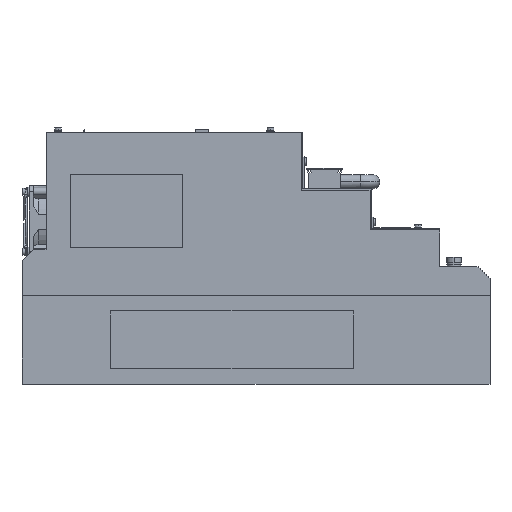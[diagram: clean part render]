
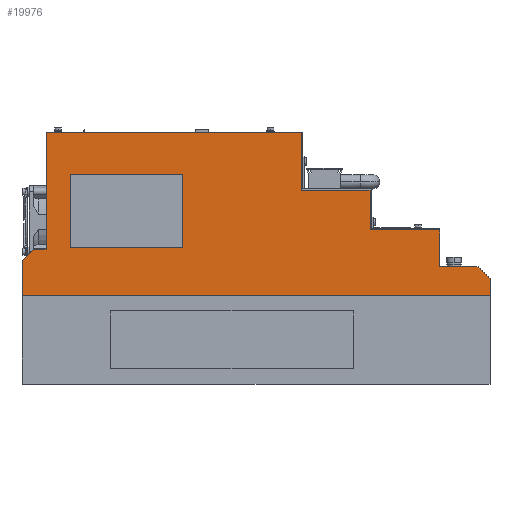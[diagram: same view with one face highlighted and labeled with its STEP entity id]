
A CAD part, left-side view. The second image highlights one B-rep face of the part: STEP entity #19976.
In plain terms, the highlighted planar face has unit normal (-1, 0, 0).
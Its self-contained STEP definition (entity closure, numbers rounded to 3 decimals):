
#2826 = DIRECTION ( 'NONE',  ( 0., 1., 0. ) ) ;
#2827 = DIRECTION ( 'NONE',  ( 1., 0., 0. ) ) ;
#2828 = CARTESIAN_POINT ( 'NONE',  ( -30., -12.5, 612.55 ) ) ;
#2829 = AXIS2_PLACEMENT_3D ( 'NONE', #2828, #2827, #2826 ) ;
#2830 = PLANE ( 'NONE',  #2829 ) ;
#2831 = FACE_OUTER_BOUND ( 'NONE', #20453, .T. ) ;
#2832 = FACE_BOUND ( 'NONE', #20171, .T. ) ;
#2909 = CARTESIAN_POINT ( 'NONE',  ( -30., -282.5, 128.5 ) ) ;
#2910 = DIRECTION ( 'NONE',  ( 0., 1., 0. ) ) ;
#2911 = VECTOR ( 'NONE', #2910, 1000. ) ;
#2912 = CARTESIAN_POINT ( 'NONE',  ( -30., -340.5, 128.5 ) ) ;
#2913 = LINE ( 'NONE', #2912, #2911 ) ;
#2967 = LINE ( 'NONE', #3034, #3033 ) ;
#3032 = DIRECTION ( 'NONE',  ( 0., 1., 0. ) ) ;
#3033 = VECTOR ( 'NONE', #3032, 1000. ) ;
#3034 = CARTESIAN_POINT ( 'NONE',  ( -30., -32.5, 175. ) ) ;
#3107 = CARTESIAN_POINT ( 'NONE',  ( -30., -32.5, 175. ) ) ;
#3151 = DIRECTION ( 'NONE',  ( 0., 0., -1. ) ) ;
#3152 = VECTOR ( 'NONE', #3151, 1000. ) ;
#3153 = CARTESIAN_POINT ( 'NONE',  ( -30., -32.5, 114. ) ) ;
#3154 = LINE ( 'NONE', #3153, #3152 ) ;
#3168 = CARTESIAN_POINT ( 'NONE',  ( -30., -126.5, 175. ) ) ;
#3218 = DIRECTION ( 'NONE',  ( 0., -1., 0. ) ) ;
#3219 = VECTOR ( 'NONE', #3218, 1000. ) ;
#3220 = CARTESIAN_POINT ( 'NONE',  ( -30., -32.5, 114. ) ) ;
#3221 = LINE ( 'NONE', #3220, #3219 ) ;
#3222 = CARTESIAN_POINT ( 'NONE',  ( -30., -32.5, 114. ) ) ;
#3224 = CARTESIAN_POINT ( 'NONE',  ( -30., -126.5, 114. ) ) ;
#3230 = DIRECTION ( 'NONE',  ( 0., 0., 1. ) ) ;
#3231 = VECTOR ( 'NONE', #3230, 1000. ) ;
#3232 = CARTESIAN_POINT ( 'NONE',  ( -30., -126.5, 114. ) ) ;
#3233 = LINE ( 'NONE', #3232, #3231 ) ;
#3250 = DIRECTION ( 'NONE',  ( 0., -1., 0. ) ) ;
#3251 = VECTOR ( 'NONE', #3250, 1000. ) ;
#3252 = CARTESIAN_POINT ( 'NONE',  ( -30., -12.5, 112.5 ) ) ;
#3253 = LINE ( 'NONE', #3252, #3251 ) ;
#3258 = CARTESIAN_POINT ( 'NONE',  ( -30., -2.5, 112.5 ) ) ;
#3268 = LINE ( 'NONE', #3332, #3331 ) ;
#3300 = DIRECTION ( 'NONE',  ( 0., 0., 1. ) ) ;
#3301 = VECTOR ( 'NONE', #3300, 1000. ) ;
#3302 = CARTESIAN_POINT ( 'NONE',  ( -30., -225.3, 161.5 ) ) ;
#3303 = LINE ( 'NONE', #3302, #3301 ) ;
#3329 = CARTESIAN_POINT ( 'NONE',  ( -30., -12.5, 112.5 ) ) ;
#3330 = DIRECTION ( 'NONE',  ( 0., 0., -1. ) ) ;
#3331 = VECTOR ( 'NONE', #3330, 1000. ) ;
#3332 = CARTESIAN_POINT ( 'NONE',  ( -30., -12.5, 612.55 ) ) ;
#3336 = CARTESIAN_POINT ( 'NONE',  ( -30., -225.3, 161.5 ) ) ;
#3375 = DIRECTION ( 'NONE',  ( 0., 1., 0. ) ) ;
#3376 = VECTOR ( 'NONE', #3375, 1000. ) ;
#3377 = CARTESIAN_POINT ( 'NONE',  ( -30., -282.5, 161.5 ) ) ;
#3378 = LINE ( 'NONE', #3377, #3376 ) ;
#3379 = CARTESIAN_POINT ( 'NONE',  ( -30., -282.5, 161.5 ) ) ;
#3491 = CARTESIAN_POINT ( 'NONE',  ( -30., -382.5, 74. ) ) ;
#3573 = CARTESIAN_POINT ( 'NONE',  ( -30., 7.5, 102.5 ) ) ;
#3638 = DIRECTION ( 'NONE',  ( 0., -0.707, -0.707 ) ) ;
#3639 = VECTOR ( 'NONE', #3638, 1000. ) ;
#3640 = CARTESIAN_POINT ( 'NONE',  ( -30., -382.5, 88. ) ) ;
#3641 = LINE ( 'NONE', #3640, #3639 ) ;
#3642 = CARTESIAN_POINT ( 'NONE',  ( -30., -382.5, 88. ) ) ;
#3643 = DIRECTION ( 'NONE',  ( 0., 0., 1. ) ) ;
#3644 = VECTOR ( 'NONE', #3643, 1000. ) ;
#3645 = CARTESIAN_POINT ( 'NONE',  ( -30., -382.5, -394.722 ) ) ;
#3646 = LINE ( 'NONE', #3645, #3644 ) ;
#3683 = DIRECTION ( 'NONE',  ( 0., 0., 1. ) ) ;
#3684 = VECTOR ( 'NONE', #3683, 1000. ) ;
#3686 = CARTESIAN_POINT ( 'NONE',  ( -30., -282.5, 128.5 ) ) ;
#3687 = LINE ( 'NONE', #3686, #3684 ) ;
#3700 = CARTESIAN_POINT ( 'NONE',  ( -30., -372.5, 98. ) ) ;
#3813 = CARTESIAN_POINT ( 'NONE',  ( -30., 7.5, 74. ) ) ;
#3839 = DIRECTION ( 'NONE',  ( 0., 0., 1. ) ) ;
#3840 = VECTOR ( 'NONE', #3839, 1000. ) ;
#3841 = CARTESIAN_POINT ( 'NONE',  ( -30., 7.5, -394.722 ) ) ;
#3842 = LINE ( 'NONE', #3841, #3840 ) ;
#3848 = DIRECTION ( 'NONE',  ( 0., -1., 0. ) ) ;
#3849 = VECTOR ( 'NONE', #3848, 1000. ) ;
#3850 = CARTESIAN_POINT ( 'NONE',  ( -30., -382.5, 74. ) ) ;
#3851 = LINE ( 'NONE', #3850, #3849 ) ;
#13636 = DIRECTION ( 'NONE',  ( 0., -0.707, 0.707 ) ) ;
#13637 = VECTOR ( 'NONE', #13636, 1000. ) ;
#13638 = CARTESIAN_POINT ( 'NONE',  ( -30., 7.5, 102.5 ) ) ;
#13639 = LINE ( 'NONE', #13638, #13637 ) ;
#19216 = DIRECTION ( 'NONE',  ( 0., -1., 0. ) ) ;
#19217 = VECTOR ( 'NONE', #19216, 1000. ) ;
#19218 = CARTESIAN_POINT ( 'NONE',  ( -30., -340.5, 98. ) ) ;
#19219 = LINE ( 'NONE', #19218, #19217 ) ;
#19976 = ADVANCED_FACE ( 'NONE', ( #2832, #2831 ), #2830, .F. ) ;
#19988 = ORIENTED_EDGE ( 'NONE', *, *, #22596, .F. ) ;
#20171 = EDGE_LOOP ( 'NONE', ( #19988, #22654, #22696, #20903 ) ) ;
#20296 = ORIENTED_EDGE ( 'NONE', *, *, #20310, .T. ) ;
#20310 = EDGE_CURVE ( 'NONE', #73932, #20326, #2913, .T. ) ;
#20326 = VERTEX_POINT ( 'NONE', #2909 ) ;
#20345 = ORIENTED_EDGE ( 'NONE', *, *, #26448, .T. ) ;
#20453 = EDGE_LOOP ( 'NONE', ( #20296, #20345, #24476, #23826, #23912, #23713, #23047, #56715, #25851, #27762, #26212, #26277, #62522, #61632 ) ) ;
#20852 = EDGE_CURVE ( 'NONE', #22568, #21946, #2967, .T. ) ;
#20903 = ORIENTED_EDGE ( 'NONE', *, *, #20852, .F. ) ;
#21946 = VERTEX_POINT ( 'NONE', #3107 ) ;
#22166 = EDGE_CURVE ( 'NONE', #21946, #22661, #3154, .T. ) ;
#22568 = VERTEX_POINT ( 'NONE', #3168 ) ;
#22596 = EDGE_CURVE ( 'NONE', #22635, #22568, #3233, .T. ) ;
#22635 = VERTEX_POINT ( 'NONE', #3224 ) ;
#22654 = ORIENTED_EDGE ( 'NONE', *, *, #22687, .F. ) ;
#22661 = VERTEX_POINT ( 'NONE', #3222 ) ;
#22687 = EDGE_CURVE ( 'NONE', #22661, #22635, #3221, .T. ) ;
#22696 = ORIENTED_EDGE ( 'NONE', *, *, #22166, .F. ) ;
#22966 = VERTEX_POINT ( 'NONE', #3258 ) ;
#23016 = EDGE_CURVE ( 'NONE', #22966, #23624, #3253, .T. ) ;
#23047 = ORIENTED_EDGE ( 'NONE', *, *, #23016, .F. ) ;
#23619 = EDGE_CURVE ( 'NONE', #75669, #23624, #3268, .T. ) ;
#23624 = VERTEX_POINT ( 'NONE', #3329 ) ;
#23713 = ORIENTED_EDGE ( 'NONE', *, *, #23619, .T. ) ;
#23826 = ORIENTED_EDGE ( 'NONE', *, *, #23880, .T. ) ;
#23880 = EDGE_CURVE ( 'NONE', #24184, #75672, #3303, .T. ) ;
#23912 = ORIENTED_EDGE ( 'NONE', *, *, #75671, .F. ) ;
#24184 = VERTEX_POINT ( 'NONE', #3336 ) ;
#24398 = VERTEX_POINT ( 'NONE', #3379 ) ;
#24400 = EDGE_CURVE ( 'NONE', #24398, #24184, #3378, .T. ) ;
#24476 = ORIENTED_EDGE ( 'NONE', *, *, #24400, .T. ) ;
#25020 = VERTEX_POINT ( 'NONE', #3491 ) ;
#25798 = VERTEX_POINT ( 'NONE', #3573 ) ;
#25851 = ORIENTED_EDGE ( 'NONE', *, *, #27836, .F. ) ;
#26212 = ORIENTED_EDGE ( 'NONE', *, *, #26240, .T. ) ;
#26240 = EDGE_CURVE ( 'NONE', #25020, #26271, #3646, .T. ) ;
#26271 = VERTEX_POINT ( 'NONE', #3642 ) ;
#26277 = ORIENTED_EDGE ( 'NONE', *, *, #26280, .F. ) ;
#26280 = EDGE_CURVE ( 'NONE', #26364, #26271, #3641, .T. ) ;
#26364 = VERTEX_POINT ( 'NONE', #3700 ) ;
#26448 = EDGE_CURVE ( 'NONE', #20326, #24398, #3687, .T. ) ;
#27707 = VERTEX_POINT ( 'NONE', #3813 ) ;
#27762 = ORIENTED_EDGE ( 'NONE', *, *, #27821, .T. ) ;
#27821 = EDGE_CURVE ( 'NONE', #27707, #25020, #3851, .T. ) ;
#27836 = EDGE_CURVE ( 'NONE', #27707, #25798, #3842, .T. ) ;
#36649 = CARTESIAN_POINT ( 'NONE',  ( -30., -340.5, 98. ) ) ;
#36650 = DIRECTION ( 'NONE',  ( 0., 0., -1. ) ) ;
#36651 = VECTOR ( 'NONE', #36650, 1000. ) ;
#36652 = CARTESIAN_POINT ( 'NONE',  ( -30., -340.5, 612.55 ) ) ;
#36653 = LINE ( 'NONE', #36652, #36651 ) ;
#36654 = CARTESIAN_POINT ( 'NONE',  ( -30., -340.5, 128.5 ) ) ;
#39938 = CARTESIAN_POINT ( 'NONE',  ( -30., -225.3, 210. ) ) ;
#39939 = DIRECTION ( 'NONE',  ( 0., -1., 0. ) ) ;
#39940 = VECTOR ( 'NONE', #39939, 1000. ) ;
#39941 = CARTESIAN_POINT ( 'NONE',  ( -30., -12.5, 210. ) ) ;
#39942 = LINE ( 'NONE', #39941, #39940 ) ;
#39943 = CARTESIAN_POINT ( 'NONE',  ( -30., -12.5, 210. ) ) ;
#56206 = EDGE_CURVE ( 'NONE', #25798, #22966, #13639, .T. ) ;
#56715 = ORIENTED_EDGE ( 'NONE', *, *, #56206, .F. ) ;
#61632 = ORIENTED_EDGE ( 'NONE', *, *, #73934, .F. ) ;
#62509 = EDGE_CURVE ( 'NONE', #73935, #26364, #19219, .T. ) ;
#62522 = ORIENTED_EDGE ( 'NONE', *, *, #62509, .F. ) ;
#73932 = VERTEX_POINT ( 'NONE', #36654 ) ;
#73934 = EDGE_CURVE ( 'NONE', #73932, #73935, #36653, .T. ) ;
#73935 = VERTEX_POINT ( 'NONE', #36649 ) ;
#75669 = VERTEX_POINT ( 'NONE', #39943 ) ;
#75671 = EDGE_CURVE ( 'NONE', #75669, #75672, #39942, .T. ) ;
#75672 = VERTEX_POINT ( 'NONE', #39938 ) ;
